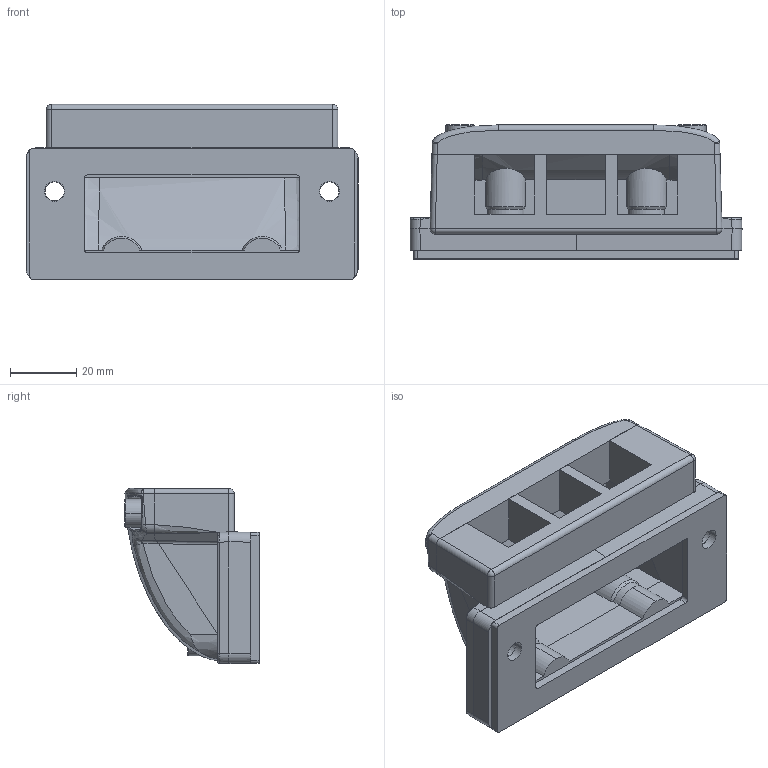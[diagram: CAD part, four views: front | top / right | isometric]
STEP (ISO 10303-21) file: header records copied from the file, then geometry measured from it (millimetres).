
FILE_DESCRIPTION (( 'STEP AP203' ), '1' );
FILE_NAME ('42346.STEP', '2025-06-25T08:03:21', ( '' ), ( '' ), 'SwSTEP 2.0', 'SolidWorks 2024', '' );
FILE_SCHEMA (( 'CONFIG_CONTROL_DESIGN' ));
Length unit declared in the file: millimetre
Products named in the file (6): 0000003906_KEL E3; DOKU_KEL-FG-E3 Unterteil_KEL-FG-E3 Unterteil; 0000005930_DOKU_Gewindebuchse; 42346; 0000000284_M5x12 - 99036; DOKU_KEL-FG-E3 Oberteil_KEL-FG-E3 Oberteil
Assembly tree (11 placements, depth 2):
  42346
    DOKU_KEL-FG-E3 Unterteil_KEL-FG-E3 Unterteil
    DOKU_KEL-FG-E3 Oberteil_KEL-FG-E3 Oberteil
    0000005930_DOKU_Gewindebuchse  x4
    0000000284_M5x12 - 99036  x4
    0000003906_KEL E3
Bounding box: 100.27 x 40.5 x 52.88 mm (x, y, z)
Volume: 68806.3 mm3; surface area: 39272.3 mm2
Topology: 11 solids, 11 shells, 489 faces, 1139 edges, 674 vertices
Faces by surface type: plane 172, cylinder 133, bspline 65, cone 60, torus 56, sphere 3
Entity records: 16917 total; most frequent: CARTESIAN_POINT 8056, ORIENTED_EDGE 1754, DIRECTION 1607, EDGE_CURVE 877, AXIS2_PLACEMENT_3D 624, VERTEX_POINT 533, EDGE_LOOP 404, FACE_OUTER_BOUND 369
